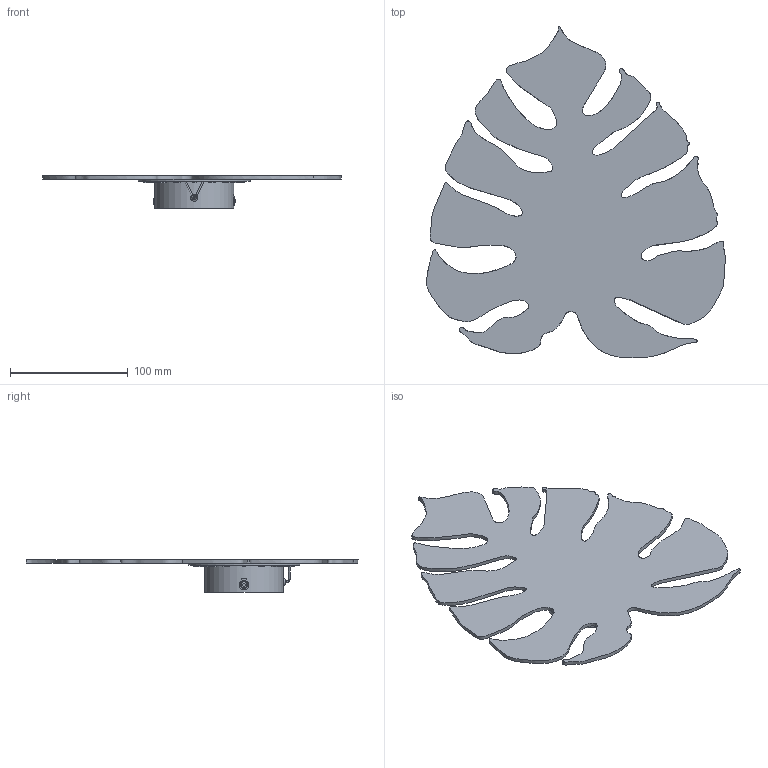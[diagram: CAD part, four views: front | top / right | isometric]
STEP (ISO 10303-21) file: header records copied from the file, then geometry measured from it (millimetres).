
FILE_DESCRIPTION(/* description */ (''),/* implementation_level */ '2;1');
FILE_NAME(/* name */ 'C:/Users/kubaw/OneDrive/Pulpit/3D/JAKUB_WIECZORKOWSKI_MAJ_PACZKA/OK/1355_MONSTERA v6.step',/* time_stamp */ '2021-06-16T16:12:28+02:00',/* author */ (''),/* organization */ (''),/* preprocessor_version */ 'ST-DEVELOPER v18.1',/* originating_system */ 'Autodesk Translation Framework v10.9.0.1377',/* authorisation */ '');
FILE_SCHEMA (('AUTOMOTIVE_DESIGN { 1 0 10303 214 3 1 1 }'));
Length unit declared in the file: millimetre
Products named in the file (3): 1355_MONSTERA; ŚRUBA2_MONSTERA; ŚRUBA2_MONSTERA v1(Mirror)
Assembly tree (2 placements, depth 2):
  1355_MONSTERA
    ŚRUBA2_MONSTERA
    ŚRUBA2_MONSTERA v1(Mirror)
Bounding box: 254.03 x 282.15 x 28 mm (x, y, z)
Volume: 329361.3 mm3; surface area: 134451.9 mm2
Topology: 44 solids, 44 shells, 280 faces, 579 edges, 386 vertices
Faces by surface type: plane 247, cylinder 24, bspline 6, torus 3
Full cylindrical faces by diameter (mm): 1.5 x4, 6 x1, 8 x2, 64 x1, 65 x1, 67 x2, 89 x2, 95 x1
Entity records: 12654 total; most frequent: CARTESIAN_POINT 6597, DIRECTION 1162, ORIENTED_EDGE 1158, EDGE_CURVE 579, LINE 476, VECTOR 476, VERTEX_POINT 386, AXIS2_PLACEMENT_3D 343
